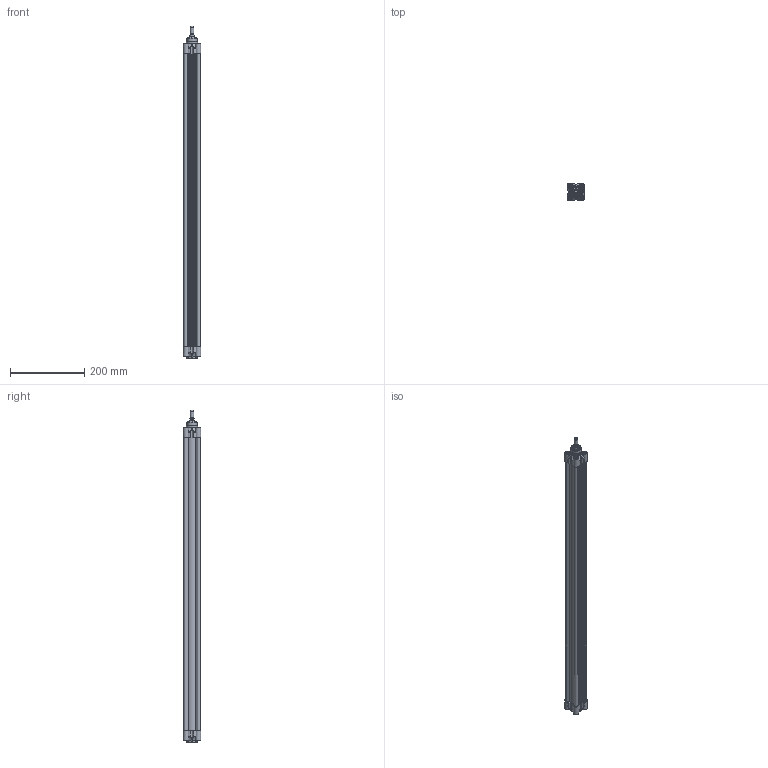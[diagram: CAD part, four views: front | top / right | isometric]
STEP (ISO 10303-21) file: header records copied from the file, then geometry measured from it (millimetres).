
FILE_DESCRIPTION(/* description */ ('CILINDRO D.E. MAGNETICO AMMORTIZZATO ISO 15552'),/* implementation_level */ '2;1');
FILE_NAME(/* name */ 'T:\Archivio Inventor\- 00 NUOVI STP PER SITO CON STELO CHE SI MUOVE\SERIE H - U\SERIE HDM\HDM032-TUBO NUOVO\HDM032.750.GS.M.stp',/* time_stamp */ '2018-07-25T14:30:34+02:00',/* author */ ('carlo.corazza'),/* organization */ (''),/* preprocessor_version */ 'ST-DEVELOPER v16.5',/* originating_system */ 'Autodesk Inventor 2017',/* authorisation */ '');
FILE_SCHEMA (('AUTOMOTIVE_DESIGN { 1 0 10303 214 3 1 1 }'));
Length unit declared in the file: millimetre
Products named in the file (5): HDM032.750.GS.M; TP; STELO-750; TA; CORPO-750
Assembly tree (4 placements, depth 2):
  HDM032.750.GS.M
    TP
    STELO-750
    TA
    CORPO-750
Bounding box: 47 x 47 x 896 mm (x, y, z)
Volume: 584811.1 mm3; surface area: 445349.9 mm2
Topology: 4 solids, 18 shells, 969 faces, 2356 edges, 1494 vertices
Faces by surface type: plane 330, cylinder 260, bspline 190, cone 86, torus 83, sphere 20
Full cylindrical faces by diameter (mm): 2 x2, 2.1 x2, 4 x2, 4.5 x2, 4.917 x8, 6 x8, 6.2 x8, 6.3 x4, 7 x2, 7.8 x4, 7.9 x3, 8 x4, 8.566 x2, 10 x9, 10.3 x8, 11.6 x1, 12 x1, 12.8 x1, 12.847 x1, 16 x1, 17 x2, 22 x3, 28 x1, 30 x2, 32 x1
Entity records: 31186 total; most frequent: CARTESIAN_POINT 9171, ORIENTED_EDGE 4162, DIRECTION 4048, EDGE_CURVE 2081, AXIS2_PLACEMENT_3D 1569, VERTEX_POINT 1436, EDGE_LOOP 1302, FACE_OUTER_BOUND 969
